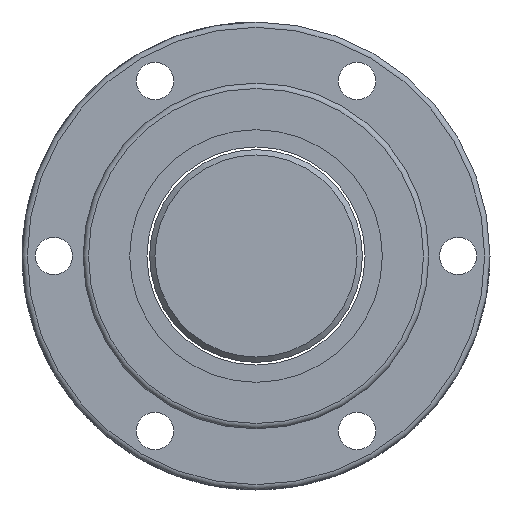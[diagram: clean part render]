
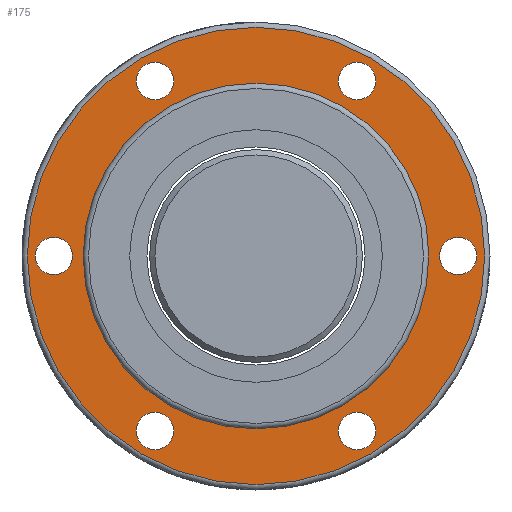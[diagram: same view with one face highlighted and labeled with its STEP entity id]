
A CAD part, left-side view. The second image highlights one B-rep face of the part: STEP entity #175.
In plain terms, the highlighted planar face has unit normal (-1, 0, 0).
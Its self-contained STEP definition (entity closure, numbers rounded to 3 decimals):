
#175=ADVANCED_FACE('',(#294,#295,#296,#297,#298,#299,#233,#300),#210,.T.);
#210=PLANE('',#846);
#233=FACE_OUTER_BOUND('',#411,.T.);
#294=FACE_BOUND('',#405,.T.);
#295=FACE_BOUND('',#406,.T.);
#296=FACE_BOUND('',#407,.T.);
#297=FACE_BOUND('',#408,.T.);
#298=FACE_BOUND('',#409,.T.);
#299=FACE_BOUND('',#410,.T.);
#300=FACE_BOUND('',#412,.T.);
#405=EDGE_LOOP('',(#529));
#406=EDGE_LOOP('',(#530));
#407=EDGE_LOOP('',(#531));
#408=EDGE_LOOP('',(#532));
#409=EDGE_LOOP('',(#533));
#410=EDGE_LOOP('',(#534));
#411=EDGE_LOOP('',(#535));
#412=EDGE_LOOP('',(#536));
#529=ORIENTED_EDGE('',*,*,#682,.F.);
#530=ORIENTED_EDGE('',*,*,#683,.F.);
#531=ORIENTED_EDGE('',*,*,#684,.F.);
#532=ORIENTED_EDGE('',*,*,#685,.F.);
#533=ORIENTED_EDGE('',*,*,#686,.F.);
#534=ORIENTED_EDGE('',*,*,#687,.F.);
#535=ORIENTED_EDGE('',*,*,#681,.T.);
#536=ORIENTED_EDGE('',*,*,#688,.F.);
#619=VERTEX_POINT('',#1231);
#620=VERTEX_POINT('',#1234);
#621=VERTEX_POINT('',#1236);
#622=VERTEX_POINT('',#1238);
#623=VERTEX_POINT('',#1240);
#624=VERTEX_POINT('',#1242);
#625=VERTEX_POINT('',#1244);
#626=VERTEX_POINT('',#1246);
#681=EDGE_CURVE('',#619,#619,#743,.T.);
#682=EDGE_CURVE('',#620,#620,#744,.T.);
#683=EDGE_CURVE('',#621,#621,#745,.T.);
#684=EDGE_CURVE('',#622,#622,#746,.T.);
#685=EDGE_CURVE('',#623,#623,#747,.T.);
#686=EDGE_CURVE('',#624,#624,#748,.T.);
#687=EDGE_CURVE('',#625,#625,#749,.T.);
#688=EDGE_CURVE('',#626,#626,#750,.T.);
#743=CIRCLE('',#837,86.);
#744=CIRCLE('',#839,7.);
#745=CIRCLE('',#840,7.);
#746=CIRCLE('',#841,7.);
#747=CIRCLE('',#842,7.);
#748=CIRCLE('',#843,7.);
#749=CIRCLE('',#844,7.);
#750=CIRCLE('',#845,65.);
#837=AXIS2_PLACEMENT_3D('',#1230,#1026,#1027);
#839=AXIS2_PLACEMENT_3D('',#1233,#1030,#1031);
#840=AXIS2_PLACEMENT_3D('',#1235,#1032,#1033);
#841=AXIS2_PLACEMENT_3D('',#1237,#1034,#1035);
#842=AXIS2_PLACEMENT_3D('',#1239,#1036,#1037);
#843=AXIS2_PLACEMENT_3D('',#1241,#1038,#1039);
#844=AXIS2_PLACEMENT_3D('',#1243,#1040,#1041);
#845=AXIS2_PLACEMENT_3D('',#1245,#1042,#1043);
#846=AXIS2_PLACEMENT_3D('',#1247,#1044,#1045);
#1026=DIRECTION('',(-1.,0.,0.));
#1027=DIRECTION('',(0.,0.,1.));
#1030=DIRECTION('',(-1.,0.,0.));
#1031=DIRECTION('',(0.,0.,1.));
#1032=DIRECTION('',(-1.,0.,0.));
#1033=DIRECTION('',(0.,0.,1.));
#1034=DIRECTION('',(-1.,0.,0.));
#1035=DIRECTION('',(0.,0.,1.));
#1036=DIRECTION('',(-1.,0.,0.));
#1037=DIRECTION('',(0.,0.,1.));
#1038=DIRECTION('',(-1.,0.,0.));
#1039=DIRECTION('',(0.,0.,1.));
#1040=DIRECTION('',(-1.,0.,0.));
#1041=DIRECTION('',(0.,0.,1.));
#1042=DIRECTION('',(-1.,0.,0.));
#1043=DIRECTION('',(0.,0.,1.));
#1044=DIRECTION('',(-1.,0.,0.));
#1045=DIRECTION('',(0.,0.,1.));
#1230=CARTESIAN_POINT('',(-59.5,0.,0.));
#1231=CARTESIAN_POINT('',(-59.5,0.,86.));
#1233=CARTESIAN_POINT('',(-59.5,76.,0.));
#1234=CARTESIAN_POINT('',(-59.5,76.,7.));
#1235=CARTESIAN_POINT('',(-59.5,-76.,0.));
#1236=CARTESIAN_POINT('',(-59.5,-76.,7.));
#1237=CARTESIAN_POINT('',(-59.5,38.,-65.818));
#1238=CARTESIAN_POINT('',(-59.5,38.,-58.818));
#1239=CARTESIAN_POINT('',(-59.5,-38.,-65.818));
#1240=CARTESIAN_POINT('',(-59.5,-38.,-58.818));
#1241=CARTESIAN_POINT('',(-59.5,-38.,65.818));
#1242=CARTESIAN_POINT('',(-59.5,-38.,72.818));
#1243=CARTESIAN_POINT('',(-59.5,38.,65.818));
#1244=CARTESIAN_POINT('',(-59.5,38.,72.818));
#1245=CARTESIAN_POINT('',(-59.5,0.,0.));
#1246=CARTESIAN_POINT('',(-59.5,0.,65.));
#1247=CARTESIAN_POINT('',(-59.5,75.5,0.));
